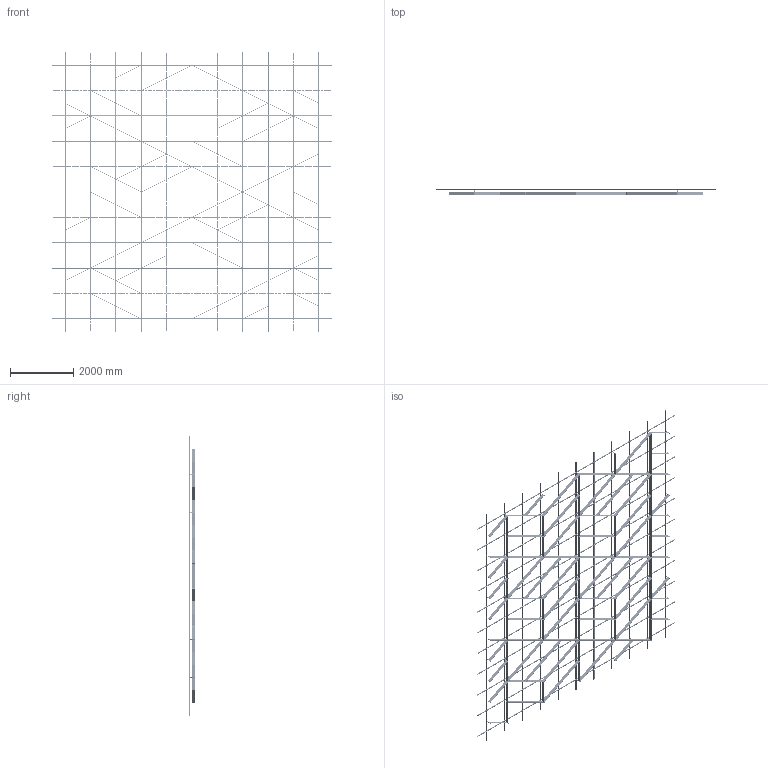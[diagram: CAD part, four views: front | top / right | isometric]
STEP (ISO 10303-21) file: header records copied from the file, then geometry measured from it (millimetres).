
FILE_DESCRIPTION (( 'STEP AP203' ), '1' );
FILE_NAME ('11 ìèäè ñ ïñ.step', '2025-11-26T11:35:57', ( '' ), ( '' ), 'SwSTEP 2.0', 'SolidWorks 2020', '' );
FILE_SCHEMA (( 'CONFIG_CONTROL_DESIGN' ));
Length unit declared in the file: millimetre
Products named in the file (5): Ñèñòåìà â çîíå 8000õ8000; 11 ìèäè ñ ïñ; Var11; SS.SEMA.2400 - Ñèìà-ïðîôèëü — îáðåçàí 1600; SS.SEMA.2400 - Ñèìà-ïðîôèëü
Assembly tree (90 placements, depth 3):
  11 ìèäè ñ ïñ
    Ñèñòåìà â çîíå 8000õ8000
      SS.SEMA.2400 - Ñèìà-ïðîôèëü  x66
      SS.SEMA.2400 - Ñèìà-ïðîôèëü — îáðåçàí 1600  x22
    Var11
Bounding box: 8800 x 205 x 8800 mm (x, y, z)
Volume: 121128311.2 mm3; surface area: 55875693.3 mm2
Topology: 533 solids, 533 shells, 18522 faces, 50960 edges, 33504 vertices
Faces by surface type: cylinder 12506, plane 6016
Entity records: 61569 total; most frequent: CARTESIAN_POINT 13792, DIRECTION 8990, ORIENTED_EDGE 8768, EDGE_CURVE 4384, AXIS2_PLACEMENT_3D 4246, VERTEX_POINT 2912, EDGE_LOOP 2528, ADVANCED_FACE 2366
